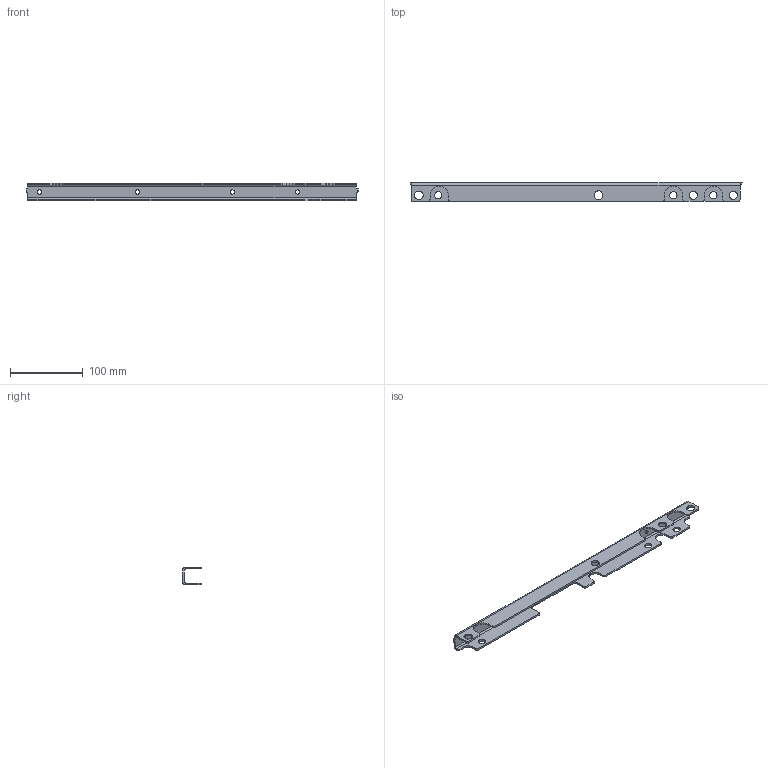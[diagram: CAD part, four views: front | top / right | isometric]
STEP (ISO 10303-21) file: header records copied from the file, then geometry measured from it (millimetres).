
FILE_DESCRIPTION(('CATIA V5 STEP Exchange'),'2;1');
FILE_NAME('E:\吉利商用车G3\3D\新开件\SHT0015274.stp','2022-12-11T06:43:56+00:00',('none'),('none'),'CATIA Version 5 Release 20 GA (IN-10)','CATIA V5 STEP AP214','none');
FILE_SCHEMA(('AUTOMOTIVE_DESIGN { 1 0 10303 214 1 1 1 1 }'));
Length unit declared in the file: millimetre
Products named in the file (1): Part60
Bounding box: 456 x 25.96 x 24.5 mm (x, y, z)
Volume: 64682 mm3; surface area: 55538.9 mm2
Topology: 1 solids, 1 shells, 104 faces, 306 edges, 204 vertices
Faces by surface type: cylinder 61, plane 43
Entity records: 3382 total; most frequent: CARTESIAN_POINT 616, ORIENTED_EDGE 612, DIRECTION 476, EDGE_CURVE 306, AXIS2_PLACEMENT_3D 206, VERTEX_POINT 204, VECTOR 184, LINE 184
